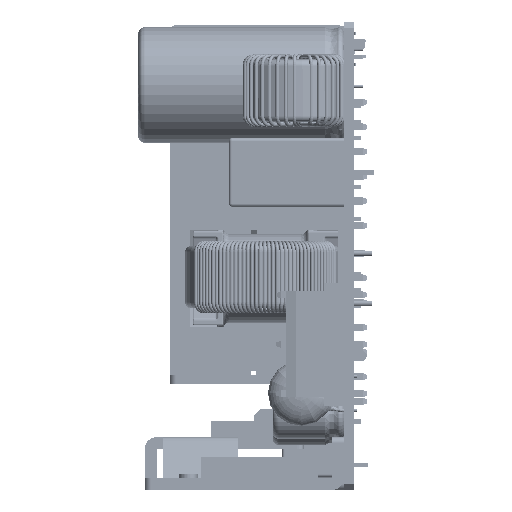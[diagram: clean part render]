
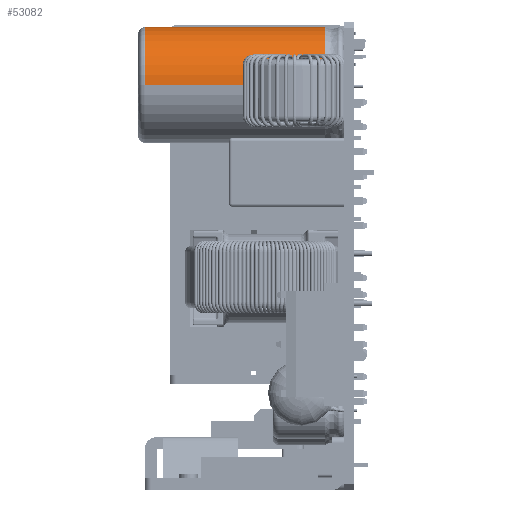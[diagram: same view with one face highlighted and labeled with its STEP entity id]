
A CAD part, left-side view. The second image highlights one B-rep face of the part: STEP entity #53082.
In plain terms, the highlighted cylindrical face has radius 9.25 mm (diameter 18.5 mm), a partial arc.
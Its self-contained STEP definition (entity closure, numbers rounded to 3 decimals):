
#15005=CARTESIAN_POINT('',(-25.3,13.653,
27.9));
#15085=CARTESIAN_POINT('',(-16.05,42.6,27.9));
#15086=DIRECTION('',(0.,1.,0.));
#15087=DIRECTION('',(-1.,0.,0.));
#15088=AXIS2_PLACEMENT_3D('',#15085,#15086,#15087);
#15090=DIRECTION('',(0.,-1.,0.));
#15091=VECTOR('',#15090,28.947);
#15092=CARTESIAN_POINT('',(-6.8,42.6,27.9));
#15093=LINE('',#15092,#15091);
#15094=CARTESIAN_POINT('',(-16.05,13.653,27.9));
#15095=DIRECTION('',(0.,-1.,0.));
#15096=DIRECTION('',(1.,0.,0.));
#15097=AXIS2_PLACEMENT_3D('',#15094,#15095,#15096);
#15099=DIRECTION('',(0.,1.,0.));
#15100=VECTOR('',#15099,28.947);
#15101=CARTESIAN_POINT('',(-25.3,13.653,
27.9));
#15102=LINE('',#15101,#15100);
#24621=VERTEX_POINT('',#15005);
#24622=CARTESIAN_POINT('',(-6.8,13.653,27.9));
#24623=VERTEX_POINT('',#24622);
#24625=CARTESIAN_POINT('',(-25.3,42.6,27.9));
#24626=VERTEX_POINT('',#24625);
#24627=CARTESIAN_POINT('',(-6.8,42.6,27.9));
#24628=VERTEX_POINT('',#24627);
#53071=CARTESIAN_POINT('',(-16.05,43.179,27.9));
#53072=DIRECTION('',(0.,-1.,0.));
#53073=DIRECTION('',(1.,0.,0.));
#53074=AXIS2_PLACEMENT_3D('',#53071,#53072,#53073);
#53075=CYLINDRICAL_SURFACE('',#53074,9.25);
#53076=ORIENTED_EDGE('',*,*,#53065,.T.);
#53077=ORIENTED_EDGE('',*,*,#53015,.T.);
#53078=ORIENTED_EDGE('',*,*,#52961,.T.);
#53079=ORIENTED_EDGE('',*,*,#53012,.T.);
#53080=EDGE_LOOP('',(#53076,#53077,#53078,#53079));
#53081=FACE_OUTER_BOUND('',#53080,.F.);
#15089=CIRCLE('',#15088,9.25);
#15098=CIRCLE('',#15097,9.25);
#52961=EDGE_CURVE('',#24623,#24621,#15098,.T.);
#53012=EDGE_CURVE('',#24621,#24626,#15102,.T.);
#53015=EDGE_CURVE('',#24628,#24623,#15093,.T.);
#53065=EDGE_CURVE('',#24626,#24628,#15089,.T.);
#53082=ADVANCED_FACE('',(#53081),#53075,.T.);
